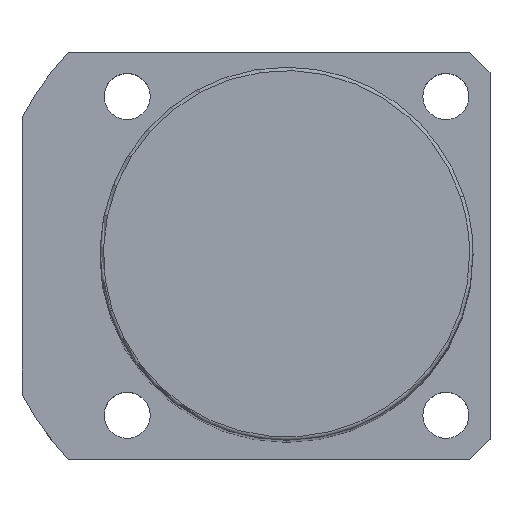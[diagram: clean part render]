
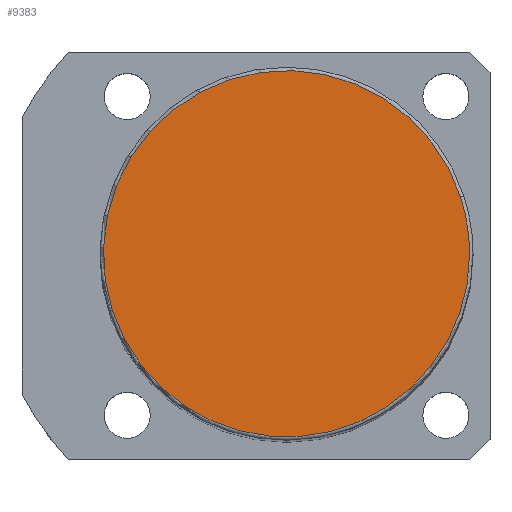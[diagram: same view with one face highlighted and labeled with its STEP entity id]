
A CAD part, top view. The second image highlights one B-rep face of the part: STEP entity #9383.
In plain terms, the highlighted planar face has unit normal (0, 0, 1).
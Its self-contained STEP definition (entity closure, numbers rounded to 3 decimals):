
#9316=CARTESIAN_POINT('',(25.679,8.343,191.0));
#9317=VERTEX_POINT('',#9316);
#9335=CARTESIAN_POINT('',(-25.679,-8.343,191.0));
#9336=VERTEX_POINT('',#9335);
#9344=CARTESIAN_POINT('',(0.0,0.0,191.0));
#9345=DIRECTION('',(0.0,0.0,1.0));
#9346=DIRECTION('',(1.0,0.0,0.0));
#9347=AXIS2_PLACEMENT_3D('',#9344,#9345,#9346);
#9348=CIRCLE('',#9347,27.0);
#9349=EDGE_CURVE('no 4543',#9317,#9336,#9348,.T.);
#9359=CARTESIAN_POINT('',(27.0,0.0,191.0));
#9360=VERTEX_POINT('',#9359);
#9361=CARTESIAN_POINT('',(0.0,0.0,191.0));
#9362=DIRECTION('',(0.0,0.0,1.0));
#9363=DIRECTION('',(1.0,0.0,0.0));
#9364=AXIS2_PLACEMENT_3D('',#9361,#9362,#9363);
#9365=CIRCLE('',#9364,27.0);
#9366=EDGE_CURVE('no 4552',#9360,#9317,#9365,.T.);
#9367=ORIENTED_EDGE('',*,*,#9366,.T.);
#9368=ORIENTED_EDGE('',*,*,#9349,.T.);
#9369=CARTESIAN_POINT('',(0.0,0.0,191.0));
#9370=DIRECTION('',(0.0,0.0,1.0));
#9371=DIRECTION('',(1.0,0.0,0.0));
#9372=AXIS2_PLACEMENT_3D('',#9369,#9370,#9371);
#9373=CIRCLE('',#9372,27.0);
#9374=EDGE_CURVE('no 4558',#9336,#9360,#9373,.T.);
#9375=ORIENTED_EDGE('',*,*,#9374,.T.);
#9376=EDGE_LOOP('',(#9367,#9368,#9375));
#9377=FACE_OUTER_BOUND('',#9376,.T.);
#9378=CARTESIAN_POINT('',(0.0,0.0,191.0));
#9379=DIRECTION('',(0.0,0.0,1.0));
#9380=DIRECTION('',(1.0,0.0,0.0));
#9381=AXIS2_PLACEMENT_3D('',#9378,#9379,#9380);
#9382=PLANE('',#9381);
#9383=ADVANCED_FACE('no 4545',(#9377),#9382,.T.);
